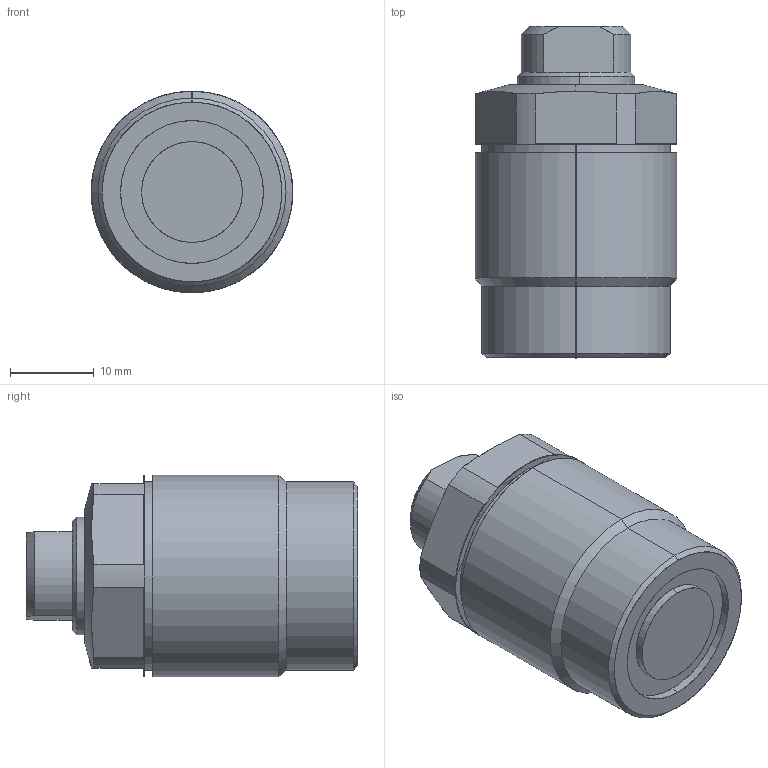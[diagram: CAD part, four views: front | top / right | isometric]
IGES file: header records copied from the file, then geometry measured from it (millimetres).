
Start section: SolidWorks IGES file using analytic representation for surfaces
Global section: file name: D:\karuppas\Clasp\3D model\Thread body cylinder\T03C-M242- S threaded pusher\T03C-M242-S threaded pusher.IGS; native system: SolidWorks 2017; preprocessor: SolidWorks 2017; author: pc; date: 220709.230759; units: millimetre
Bounding box: 24 x 39.5 x 24 mm (x, y, z)
Surface area: 5362.4 mm2 (no closed solid volume)
Topology: 0 solids, 0 shells, 254 faces, 2901 edges, 2899 vertices
Faces by surface type: bspline 221, revolution 33
